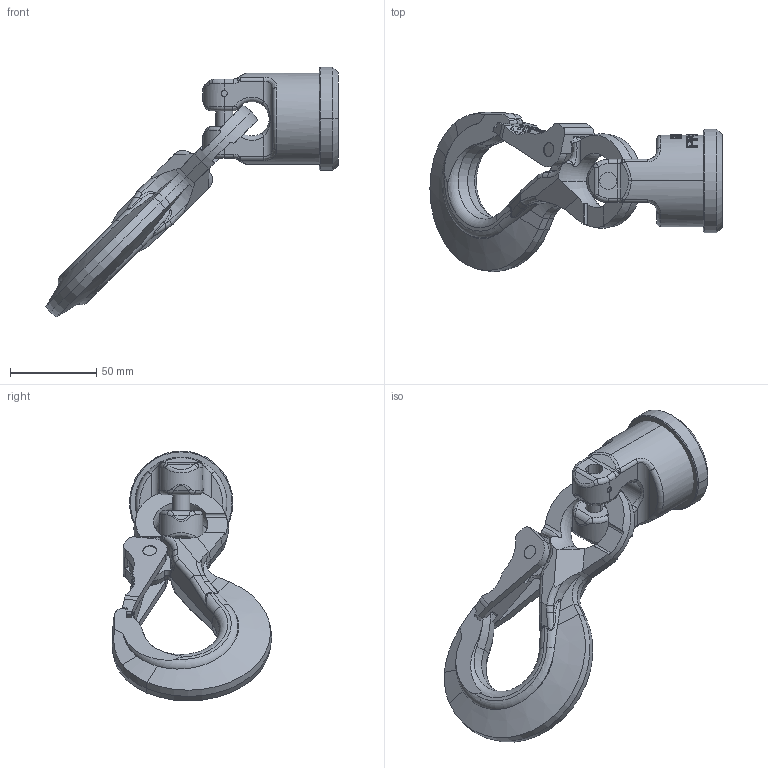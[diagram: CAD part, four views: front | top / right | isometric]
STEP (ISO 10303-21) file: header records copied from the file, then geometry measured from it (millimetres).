
FILE_DESCRIPTION((''),'2;1');
FILE_NAME('001-M31347-P-40_ASM','2018-04-27T',('Anja.Joas'),(''),'PRO/ENGINEER BY PARAMETRIC TECHNOLOGY CORPORATION, 2011490','PRO/ENGINEER BY PARAMETRIC TECHNOLOGY CORPORATION, 2011490','');
FILE_SCHEMA(('CONFIG_CONTROL_DESIGN'));
Length unit declared in the file: millimetre
Products named in the file (6): 001-M31347-P-20; 001-M31347-P-50; 001-M13022-001; 001-M31177-001; 001-M13022-002_ASM; 001-M31347-P-40_ASM
Assembly tree (5 placements, depth 3):
  001-M31347-P-40_ASM
    001-M31347-P-20
    001-M31347-P-50
    001-M13022-002_ASM
      001-M13022-001
      001-M31177-001
Bounding box: 169.42 x 92.48 x 144.92 mm (x, y, z)
Volume: 242198.4 mm3; surface area: 52354.5 mm2
Topology: 4 solids, 4 shells, 638 faces, 1712 edges, 1086 vertices
Faces by surface type: plane 357, cylinder 119, bspline 56, cone 40, torus 36, sphere 30
Entity records: 23361 total; most frequent: CARTESIAN_POINT 8298, ORIENTED_EDGE 3368, DIRECTION 2779, EDGE_CURVE 1684, VERTEX_POINT 1086, AXIS2_PLACEMENT_3D 1026, VECTOR 727, LINE 727
